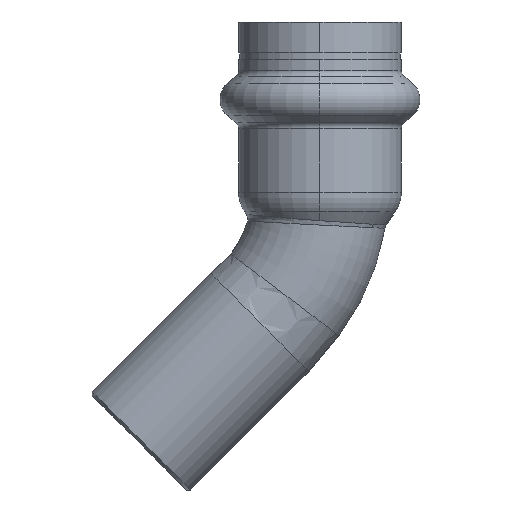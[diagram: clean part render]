
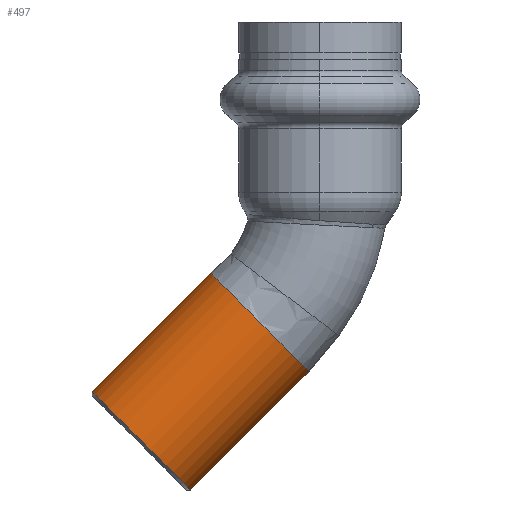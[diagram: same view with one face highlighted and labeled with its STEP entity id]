
A CAD part, left-side view. The second image highlights one B-rep face of the part: STEP entity #497.
In plain terms, the highlighted cylindrical face has radius 9 mm (diameter 18 mm), a partial arc.
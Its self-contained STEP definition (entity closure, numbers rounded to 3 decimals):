
#89 = AXIS2_PLACEMENT_3D ( 'NONE', #1940, #1926, #1935 ) ;
#108 = CYLINDRICAL_SURFACE ( 'NONE', #89, 9. ) ;
#113 = VECTOR ( 'NONE', #1125, 1000. ) ;
#174 = VERTEX_POINT ( 'NONE', #1784 ) ;
#185 = VERTEX_POINT ( 'NONE', #1860 ) ;
#265 = EDGE_CURVE ( 'NONE', #174, #715, #1338, .T. ) ;
#307 = EDGE_CURVE ( 'NONE', #185, #1196, #476, .T. ) ;
#476 = CIRCLE ( 'NONE', #519, 9. ) ;
#497 = ADVANCED_FACE ( 'NONE', ( #1600 ), #108, .T. ) ;
#498 = ORIENTED_EDGE ( 'NONE', *, *, #265, .T. ) ;
#519 = AXIS2_PLACEMENT_3D ( 'NONE', #1164, #1803, #1428 ) ;
#573 = EDGE_LOOP ( 'NONE', ( #1802, #498, #682, #1806 ) ) ;
#682 = ORIENTED_EDGE ( 'NONE', *, *, #1825, .T. ) ;
#710 = AXIS2_PLACEMENT_3D ( 'NONE', #2304, #2308, #2312 ) ;
#715 = VERTEX_POINT ( 'NONE', #930 ) ;
#811 = VECTOR ( 'NONE', #820, 1000. ) ;
#820 = DIRECTION ( 'NONE',  ( 0., 0.707, -0.707 ) ) ;
#930 = CARTESIAN_POINT ( 'NONE',  ( 0., 14.142, -1.414 ) ) ;
#1031 = CARTESIAN_POINT ( 'NONE',  ( 0., 18.007, -30.735 ) ) ;
#1123 = CARTESIAN_POINT ( 'NONE',  ( 0., 30.735, -18.007 ) ) ;
#1125 = DIRECTION ( 'NONE',  ( 0., 0.707, -0.707 ) ) ;
#1137 = LINE ( 'NONE', #1031, #811 ) ;
#1164 = CARTESIAN_POINT ( 'NONE',  ( 0., 23.052, -23.052 ) ) ;
#1196 = VERTEX_POINT ( 'NONE', #1484 ) ;
#1338 = CIRCLE ( 'NONE', #710, 9. ) ;
#1428 = DIRECTION ( 'NONE',  ( 0., 0.707, 0.707 ) ) ;
#1462 = LINE ( 'NONE', #1123, #113 ) ;
#1484 = CARTESIAN_POINT ( 'NONE',  ( 0., 16.688, -29.416 ) ) ;
#1600 = FACE_OUTER_BOUND ( 'NONE', #573, .T. ) ;
#1784 = CARTESIAN_POINT ( 'NONE',  ( 0., 1.414, -14.142 ) ) ;
#1802 = ORIENTED_EDGE ( 'NONE', *, *, #1816, .F. ) ;
#1803 = DIRECTION ( 'NONE',  ( 0., -0.707, 0.707 ) ) ;
#1806 = ORIENTED_EDGE ( 'NONE', *, *, #307, .T. ) ;
#1816 = EDGE_CURVE ( 'NONE', #174, #1196, #1137, .T. ) ;
#1825 = EDGE_CURVE ( 'NONE', #715, #185, #1462, .T. ) ;
#1860 = CARTESIAN_POINT ( 'NONE',  ( 0., 29.416, -16.688 ) ) ;
#1926 = DIRECTION ( 'NONE',  ( 0., 0.707, -0.707 ) ) ;
#1935 = DIRECTION ( 'NONE',  ( 0., 0.707, 0.707 ) ) ;
#1940 = CARTESIAN_POINT ( 'NONE',  ( 0., 24.371, -24.371 ) ) ;
#2304 = CARTESIAN_POINT ( 'NONE',  ( 0., 7.778, -7.778 ) ) ;
#2308 = DIRECTION ( 'NONE',  ( 0., 0.707, -0.707 ) ) ;
#2312 = DIRECTION ( 'NONE',  ( 0., 0.707, 0.707 ) ) ;
